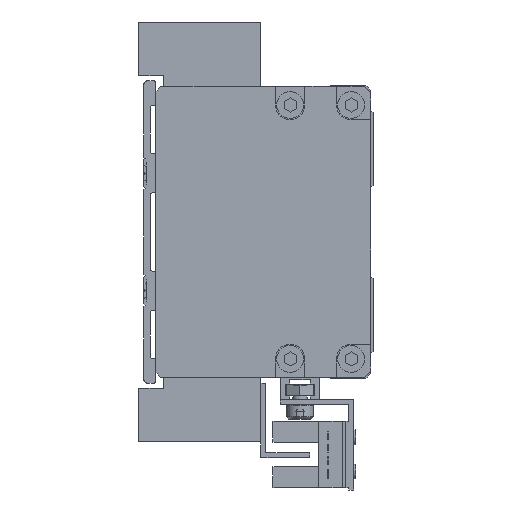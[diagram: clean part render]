
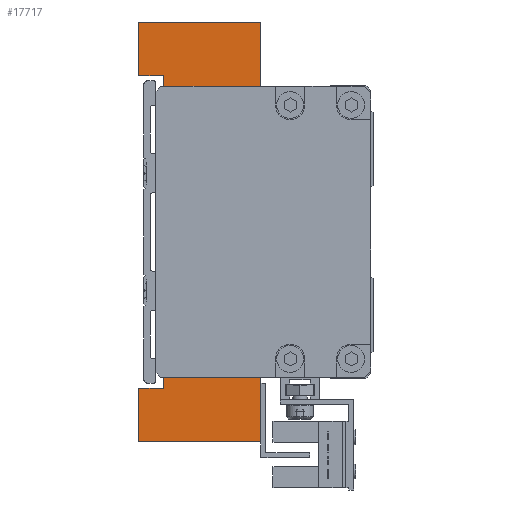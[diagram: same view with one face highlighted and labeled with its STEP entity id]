
A CAD part, left-side view. The second image highlights one B-rep face of the part: STEP entity #17717.
In plain terms, the highlighted planar face has unit normal (-1, 0, 0).
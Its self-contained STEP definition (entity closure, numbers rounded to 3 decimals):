
#33 = ORIENTED_EDGE ( 'NONE', *, *, #2718, .F. ) ;
#214 = CARTESIAN_POINT ( 'NONE',  ( -77., 20., -32. ) ) ;
#328 = CARTESIAN_POINT ( 'NONE',  ( -77., 9., -21. ) ) ;
#827 = ORIENTED_EDGE ( 'NONE', *, *, #17016, .T. ) ;
#1131 = LINE ( 'NONE', #328, #33862 ) ;
#1165 = VERTEX_POINT ( 'NONE', #23537 ) ;
#1174 = CARTESIAN_POINT ( 'NONE',  ( -77., 0., 43. ) ) ;
#1352 = LINE ( 'NONE', #31649, #20671 ) ;
#1555 = CARTESIAN_POINT ( 'NONE',  ( -77., 0., -43. ) ) ;
#1590 = DIRECTION ( 'NONE',  ( 0., 0., -1. ) ) ;
#1626 = CARTESIAN_POINT ( 'NONE',  ( -77., 9., -21. ) ) ;
#1826 = ORIENTED_EDGE ( 'NONE', *, *, #16419, .F. ) ;
#2225 = CARTESIAN_POINT ( 'NONE',  ( -77., 0., -28. ) ) ;
#2440 = ORIENTED_EDGE ( 'NONE', *, *, #35994, .T. ) ;
#2718 = EDGE_CURVE ( 'NONE', #11556, #10233, #33729, .T. ) ;
#2720 = VERTEX_POINT ( 'NONE', #1555 ) ;
#2844 = DIRECTION ( 'NONE',  ( 0., -1., 0. ) ) ;
#3193 = DIRECTION ( 'NONE',  ( 0., 0., 1. ) ) ;
#3430 = CARTESIAN_POINT ( 'NONE',  ( -77., 10., 21. ) ) ;
#3759 = DIRECTION ( 'NONE',  ( 0., 0., -1. ) ) ;
#4254 = LINE ( 'NONE', #18338, #35964 ) ;
#4258 = CARTESIAN_POINT ( 'NONE',  ( -77., 5., 28. ) ) ;
#4702 = CARTESIAN_POINT ( 'NONE',  ( -77., 25., -43. ) ) ;
#5691 = LINE ( 'NONE', #8850, #38463 ) ;
#5935 = VERTEX_POINT ( 'NONE', #22868 ) ;
#5965 = CARTESIAN_POINT ( 'NONE',  ( -77., 25., -43. ) ) ;
#6568 = DIRECTION ( 'NONE',  ( 0., 0., -1. ) ) ;
#6804 = DIRECTION ( 'NONE',  ( 1., 0., 0. ) ) ;
#7745 = VECTOR ( 'NONE', #3193, 1000. ) ;
#8035 = EDGE_CURVE ( 'NONE', #40745, #1165, #9754, .T. ) ;
#8850 = CARTESIAN_POINT ( 'NONE',  ( -77., 20., 32. ) ) ;
#8889 = LINE ( 'NONE', #39704, #36576 ) ;
#9056 = VERTEX_POINT ( 'NONE', #14803 ) ;
#9467 = VERTEX_POINT ( 'NONE', #2225 ) ;
#9589 = VECTOR ( 'NONE', #27039, 1000. ) ;
#9754 = LINE ( 'NONE', #34934, #7745 ) ;
#10233 = VERTEX_POINT ( 'NONE', #214 ) ;
#10495 = EDGE_CURVE ( 'NONE', #11870, #20808, #8889, .T. ) ;
#11124 = EDGE_CURVE ( 'NONE', #17596, #11556, #37329, .T. ) ;
#11548 = CARTESIAN_POINT ( 'NONE',  ( -77., 25., 32. ) ) ;
#11556 = VERTEX_POINT ( 'NONE', #16221 ) ;
#11870 = VERTEX_POINT ( 'NONE', #40707 ) ;
#11922 = LINE ( 'NONE', #31146, #38670 ) ;
#12527 = ORIENTED_EDGE ( 'NONE', *, *, #30344, .F. ) ;
#12537 = ORIENTED_EDGE ( 'NONE', *, *, #30687, .F. ) ;
#12838 = VERTEX_POINT ( 'NONE', #24463 ) ;
#12911 = CARTESIAN_POINT ( 'NONE',  ( -77., 0., -28. ) ) ;
#13969 = VERTEX_POINT ( 'NONE', #31283 ) ;
#14082 = DIRECTION ( 'NONE',  ( 0., 1., 0. ) ) ;
#14148 = ORIENTED_EDGE ( 'NONE', *, *, #15083, .T. ) ;
#14803 = CARTESIAN_POINT ( 'NONE',  ( -77., 20., 32. ) ) ;
#15083 = EDGE_CURVE ( 'NONE', #16852, #40691, #1352, .T. ) ;
#15570 = DIRECTION ( 'NONE',  ( 0., 0., 1. ) ) ;
#15656 = CARTESIAN_POINT ( 'NONE',  ( -77., 5., -21. ) ) ;
#16052 = EDGE_CURVE ( 'NONE', #16852, #13969, #36965, .T. ) ;
#16221 = CARTESIAN_POINT ( 'NONE',  ( -77., 25., -32. ) ) ;
#16417 = LINE ( 'NONE', #24717, #33714 ) ;
#16419 = EDGE_CURVE ( 'NONE', #20808, #26086, #24550, .T. ) ;
#16852 = VERTEX_POINT ( 'NONE', #39151 ) ;
#17016 = EDGE_CURVE ( 'NONE', #40691, #26086, #11922, .T. ) ;
#17442 = DIRECTION ( 'NONE',  ( 0., 0., -1. ) ) ;
#17596 = VERTEX_POINT ( 'NONE', #5965 ) ;
#17647 = CARTESIAN_POINT ( 'NONE',  ( -77., 9., 21. ) ) ;
#17717 = ADVANCED_FACE ( 'NONE', ( #35134 ), #38271, .F. ) ;
#17828 = CARTESIAN_POINT ( 'NONE',  ( -77., 0., -43. ) ) ;
#17923 = ORIENTED_EDGE ( 'NONE', *, *, #22576, .F. ) ;
#18338 = CARTESIAN_POINT ( 'NONE',  ( -77., 20., -32. ) ) ;
#18715 = EDGE_CURVE ( 'NONE', #12838, #25311, #27193, .T. ) ;
#18770 = VECTOR ( 'NONE', #6568, 1000. ) ;
#19050 = DIRECTION ( 'NONE',  ( 0., -1., 0. ) ) ;
#19135 = VECTOR ( 'NONE', #25486, 1000. ) ;
#19896 = LINE ( 'NONE', #12911, #37227 ) ;
#20126 = CARTESIAN_POINT ( 'NONE',  ( -77., 9., -21. ) ) ;
#20671 = VECTOR ( 'NONE', #2844, 1000. ) ;
#20808 = VERTEX_POINT ( 'NONE', #22631 ) ;
#20893 = DIRECTION ( 'NONE',  ( 0., 0., -1. ) ) ;
#22201 = DIRECTION ( 'NONE',  ( 0., -1., 0. ) ) ;
#22559 = VECTOR ( 'NONE', #17442, 1000. ) ;
#22576 = EDGE_CURVE ( 'NONE', #9467, #2720, #19896, .T. ) ;
#22631 = CARTESIAN_POINT ( 'NONE',  ( -77., 5., 28. ) ) ;
#22868 = CARTESIAN_POINT ( 'NONE',  ( -77., 0., 43. ) ) ;
#23238 = ORIENTED_EDGE ( 'NONE', *, *, #18715, .F. ) ;
#23537 = CARTESIAN_POINT ( 'NONE',  ( -77., 25., 43. ) ) ;
#23573 = DIRECTION ( 'NONE',  ( 0., -1., 0. ) ) ;
#23864 = ORIENTED_EDGE ( 'NONE', *, *, #32766, .F. ) ;
#24463 = CARTESIAN_POINT ( 'NONE',  ( -77., 5., -21. ) ) ;
#24550 = LINE ( 'NONE', #4258, #22559 ) ;
#24717 = CARTESIAN_POINT ( 'NONE',  ( -77., 25., 43. ) ) ;
#25242 = VECTOR ( 'NONE', #1590, 1000. ) ;
#25311 = VERTEX_POINT ( 'NONE', #28626 ) ;
#25380 = ORIENTED_EDGE ( 'NONE', *, *, #29970, .F. ) ;
#25486 = DIRECTION ( 'NONE',  ( 0., 0., -1. ) ) ;
#26086 = VERTEX_POINT ( 'NONE', #39091 ) ;
#26509 = ORIENTED_EDGE ( 'NONE', *, *, #35652, .F. ) ;
#26810 = VECTOR ( 'NONE', #32604, 1000. ) ;
#27039 = DIRECTION ( 'NONE',  ( 0., 0., 1. ) ) ;
#27193 = LINE ( 'NONE', #15656, #18770 ) ;
#28626 = CARTESIAN_POINT ( 'NONE',  ( -77., 5., -28. ) ) ;
#28877 = CARTESIAN_POINT ( 'NONE',  ( -77., 10., 0. ) ) ;
#28983 = ORIENTED_EDGE ( 'NONE', *, *, #40315, .F. ) ;
#29436 = VERTEX_POINT ( 'NONE', #1626 ) ;
#29970 = EDGE_CURVE ( 'NONE', #1165, #5935, #16417, .T. ) ;
#30344 = EDGE_CURVE ( 'NONE', #5935, #11870, #36648, .T. ) ;
#30687 = EDGE_CURVE ( 'NONE', #25311, #9467, #31676, .T. ) ;
#31146 = CARTESIAN_POINT ( 'NONE',  ( -77., 9., 21. ) ) ;
#31240 = ORIENTED_EDGE ( 'NONE', *, *, #16052, .F. ) ;
#31283 = CARTESIAN_POINT ( 'NONE',  ( -77., 10., -21. ) ) ;
#31649 = CARTESIAN_POINT ( 'NONE',  ( -77., 10., 21. ) ) ;
#31676 = LINE ( 'NONE', #41070, #34163 ) ;
#32604 = DIRECTION ( 'NONE',  ( 0., 1., 0. ) ) ;
#32766 = EDGE_CURVE ( 'NONE', #9056, #40745, #5691, .T. ) ;
#32919 = ORIENTED_EDGE ( 'NONE', *, *, #11124, .F. ) ;
#33714 = VECTOR ( 'NONE', #40245, 1000. ) ;
#33729 = LINE ( 'NONE', #36458, #35737 ) ;
#33862 = VECTOR ( 'NONE', #19050, 1000. ) ;
#33875 = EDGE_CURVE ( 'NONE', #2720, #17596, #34907, .T. ) ;
#34163 = VECTOR ( 'NONE', #22201, 1000. ) ;
#34907 = LINE ( 'NONE', #17828, #39377 ) ;
#34934 = CARTESIAN_POINT ( 'NONE',  ( -77., 25., 32. ) ) ;
#35134 = FACE_OUTER_BOUND ( 'NONE', #37840, .T. ) ;
#35255 = LINE ( 'NONE', #20126, #26810 ) ;
#35652 = EDGE_CURVE ( 'NONE', #10233, #9056, #4254, .T. ) ;
#35737 = VECTOR ( 'NONE', #23573, 1000. ) ;
#35964 = VECTOR ( 'NONE', #15570, 1000. ) ;
#35994 = EDGE_CURVE ( 'NONE', #29436, #13969, #35255, .T. ) ;
#36458 = CARTESIAN_POINT ( 'NONE',  ( -77., 25., -32. ) ) ;
#36576 = VECTOR ( 'NONE', #14082, 1000. ) ;
#36648 = LINE ( 'NONE', #1174, #25242 ) ;
#36965 = LINE ( 'NONE', #3430, #19135 ) ;
#37170 = ORIENTED_EDGE ( 'NONE', *, *, #8035, .F. ) ;
#37227 = VECTOR ( 'NONE', #20893, 1000. ) ;
#37242 = DIRECTION ( 'NONE',  ( 0., -1., 0. ) ) ;
#37329 = LINE ( 'NONE', #4702, #9589 ) ;
#37840 = EDGE_LOOP ( 'NONE', ( #14148, #827, #1826, #39911, #12527, #25380, #37170, #23864, #26509, #33, #32919, #38929, #17923, #12537, #23238, #28983, #2440, #31240 ) ) ;
#38271 = PLANE ( 'NONE',  #39739 ) ;
#38463 = VECTOR ( 'NONE', #40610, 1000. ) ;
#38670 = VECTOR ( 'NONE', #37242, 1000. ) ;
#38929 = ORIENTED_EDGE ( 'NONE', *, *, #33875, .F. ) ;
#39091 = CARTESIAN_POINT ( 'NONE',  ( -77., 5., 21. ) ) ;
#39151 = CARTESIAN_POINT ( 'NONE',  ( -77., 10., 21. ) ) ;
#39377 = VECTOR ( 'NONE', #40125, 1000. ) ;
#39704 = CARTESIAN_POINT ( 'NONE',  ( -77., 0., 28. ) ) ;
#39739 = AXIS2_PLACEMENT_3D ( 'NONE', #28877, #6804, #3759 ) ;
#39911 = ORIENTED_EDGE ( 'NONE', *, *, #10495, .F. ) ;
#40125 = DIRECTION ( 'NONE',  ( 0., 1., 0. ) ) ;
#40245 = DIRECTION ( 'NONE',  ( 0., -1., 0. ) ) ;
#40315 = EDGE_CURVE ( 'NONE', #29436, #12838, #1131, .T. ) ;
#40610 = DIRECTION ( 'NONE',  ( 0., 1., 0. ) ) ;
#40691 = VERTEX_POINT ( 'NONE', #17647 ) ;
#40707 = CARTESIAN_POINT ( 'NONE',  ( -77., 0., 28. ) ) ;
#40745 = VERTEX_POINT ( 'NONE', #11548 ) ;
#41070 = CARTESIAN_POINT ( 'NONE',  ( -77., 5., -28. ) ) ;
